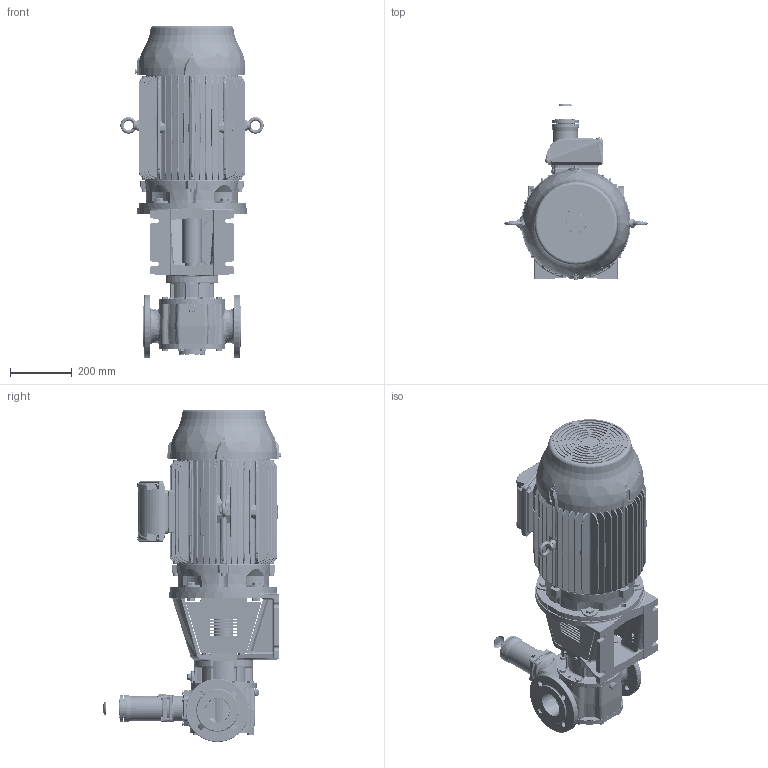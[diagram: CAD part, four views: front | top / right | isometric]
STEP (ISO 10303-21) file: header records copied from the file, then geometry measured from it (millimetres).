
FILE_DESCRIPTION(/* description */ (''),/* implementation_level */ '2;1');
FILE_NAME(/* name */ 'C:\V\JPP\Designs\GEAR PUMPS\PRODUCT ENGINEERING\EUROPE\TG BLOC\TG BLOC_58-80_R3_O_RV1-_180L-STEP.stp',/* time_stamp */ '2021-03-19T11:45:36+01:00',/* author */ ('A77THR'),/* organization */ (''),/* preprocessor_version */ 'ST-DEVELOPER v18.1',/* originating_system */ 'Autodesk Inventor 2020',/* authorisation */ '');
FILE_SCHEMA (('AUTOMOTIVE_DESIGN { 1 0 10303 214 3 1 1 }'));
Length unit declared in the file: millimetre
Products named in the file (1): TG BLOC_58-80_R3_O_RV1-_180L
Bounding box: 466 x 576.64 x 1079.7 mm (x, y, z)
Volume: 63610569.6 mm3; surface area: 2868221.2 mm2
Topology: 4 solids, 4 shells, 5591 faces, 14273 edges, 8891 vertices
Faces by surface type: plane 1996, bspline 1495, cylinder 1292, cone 597, torus 149, sphere 62
Full cylindrical faces by diameter (mm): 4 x1, 4.5 x8, 4.917 x8, 5 x4, 5.459 x4, 6 x4, 6.647 x1, 6.8 x2, 7 x8, 7.323 x18, 8 x17, 8.7 x4, 9 x18, 10 x8, 10.106 x7, 10.2 x2, 11.053 x4, 11.4 x18, 11.445 x2, 11.6 x3, 12 x4, 13 x1, 13.157 x2, 13.2 x2, 14 x8, 15.011 x2, 16 x5, 17.2 x20, 18 x10, 19 x6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
Entity records: 251282 total; most frequent: CARTESIAN_POINT 121134, ORIENTED_EDGE 28370, DIRECTION 23464, EDGE_CURVE 14185, AXIS2_PLACEMENT_3D 9247, VERTEX_POINT 8889, EDGE_LOOP 6014, FACE_OUTER_BOUND 5591
